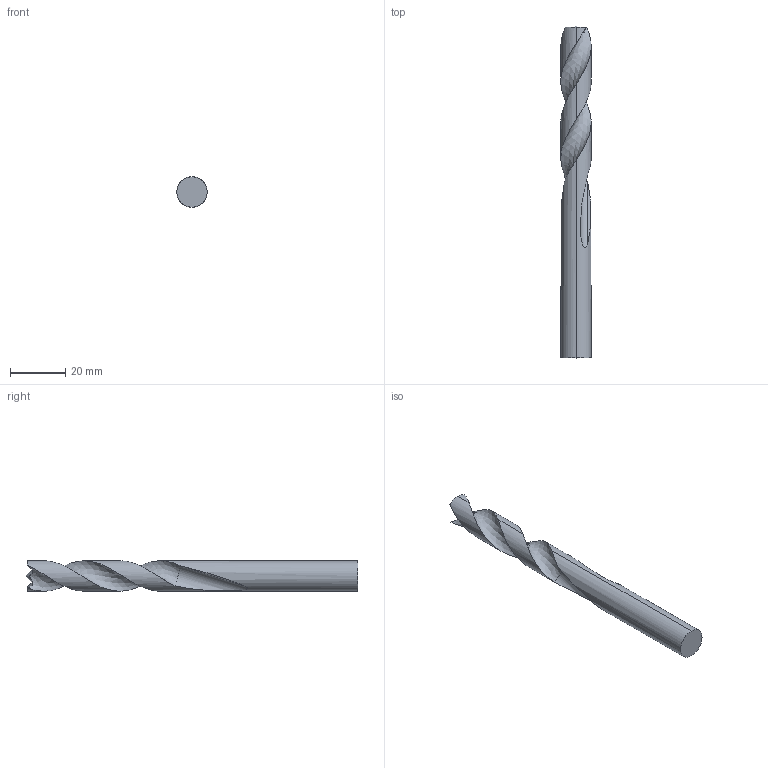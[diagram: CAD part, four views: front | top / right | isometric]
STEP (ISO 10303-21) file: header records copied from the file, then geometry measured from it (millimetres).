
FILE_DESCRIPTION (( 'STEP AP214' ), '1' );
FILE_NAME ('084.818.009.STEP', '2021-02-05T11:03:19', ( '' ), ( '' ), 'SwSTEP 2.0', 'SolidWorks 2018', '' );
FILE_SCHEMA (( 'AUTOMOTIVE_DESIGN' ));
Length unit declared in the file: millimetre
Products named in the file (1): 084.818.009
Bounding box: 11 x 120 x 11 mm (x, y, z)
Volume: 8168.7 mm3; surface area: 4420 mm2
Topology: 1 solids, 1 shells, 24 faces, 62 edges, 40 vertices
Faces by surface type: cylinder 8, plane 6, cone 5, torus 3, bspline 2
Entity records: 2689 total; most frequent: CARTESIAN_POINT 2129, ORIENTED_EDGE 124, DIRECTION 99, EDGE_CURVE 62, AXIS2_PLACEMENT_3D 44, VERTEX_POINT 40, ADVANCED_FACE 24, FACE_OUTER_BOUND 24
